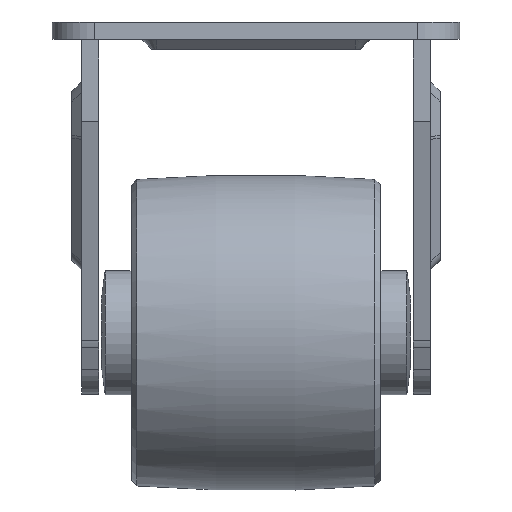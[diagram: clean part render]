
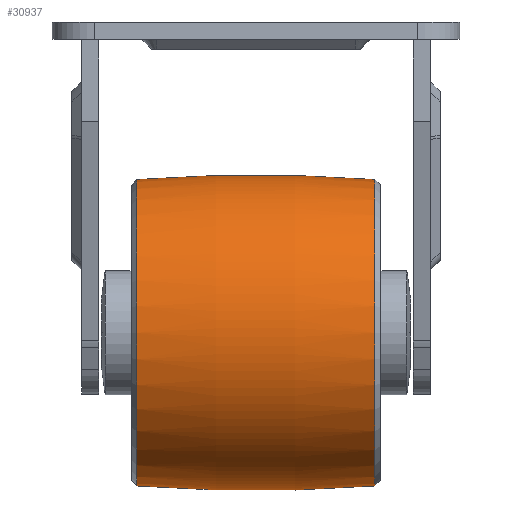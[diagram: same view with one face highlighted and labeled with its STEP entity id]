
A CAD part, left-side view. The second image highlights one B-rep face of the part: STEP entity #30937.
In plain terms, the highlighted toroidal (fillet/blend) face has major radius 281.25 mm and minor radius 313 mm.
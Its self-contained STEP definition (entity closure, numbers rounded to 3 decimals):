
#896 = CARTESIAN_POINT ( 'NONE',  ( -7.346, 127.215, 192.452 ) ) ;
#1140 = CIRCLE ( 'NONE', #19275, 30.828 ) ;
#3233 = CARTESIAN_POINT ( 'NONE',  ( -7.346, 175.134, 161.617 ) ) ;
#3414 = DIRECTION ( 'NONE',  ( 0., 0., -1. ) ) ;
#3679 = AXIS2_PLACEMENT_3D ( 'NONE', #29043, #35017, #18927 ) ;
#4761 = CIRCLE ( 'NONE', #3679, 313. ) ;
#5025 = AXIS2_PLACEMENT_3D ( 'NONE', #35273, #19315, #16358 ) ;
#6344 = DIRECTION ( 'NONE',  ( 0., 0., -1. ) ) ;
#8946 = VERTEX_POINT ( 'NONE', #896 ) ;
#9688 = TOROIDAL_SURFACE ( 'NONE', #5025, -281.25, 313. ) ;
#9713 = CARTESIAN_POINT ( 'NONE',  ( -7.346, 175.134, 130.789 ) ) ;
#9801 = DIRECTION ( 'NONE',  ( 1., 0., 0. ) ) ;
#10509 = ORIENTED_EDGE ( 'NONE', *, *, #14700, .T. ) ;
#11156 = ORIENTED_EDGE ( 'NONE', *, *, #35917, .F. ) ;
#12208 = CIRCLE ( 'NONE', #35947, 30.835 ) ;
#13982 = ORIENTED_EDGE ( 'NONE', *, *, #20694, .T. ) ;
#14700 = EDGE_CURVE ( 'NONE', #37093, #31857, #1140, .T. ) ;
#15361 = EDGE_LOOP ( 'NONE', ( #11156, #13982, #37348, #10509 ) ) ;
#16358 = DIRECTION ( 'NONE',  ( 0., 0., 1. ) ) ;
#18813 = CARTESIAN_POINT ( 'NONE',  ( -7.346, 127.215, 130.782 ) ) ;
#18927 = DIRECTION ( 'NONE',  ( 0., 0., 1. ) ) ;
#19066 = EDGE_CURVE ( 'NONE', #8946, #37093, #4761, .T. ) ;
#19275 = AXIS2_PLACEMENT_3D ( 'NONE', #3233, #42073, #6344 ) ;
#19315 = DIRECTION ( 'NONE',  ( 0., 1., 0. ) ) ;
#19866 = FACE_OUTER_BOUND ( 'NONE', #15361, .T. ) ;
#20694 = EDGE_CURVE ( 'NONE', #28146, #8946, #12208, .T. ) ;
#25512 = AXIS2_PLACEMENT_3D ( 'NONE', #29273, #9801, #3414 ) ;
#26761 = CARTESIAN_POINT ( 'NONE',  ( -7.346, 175.134, 192.445 ) ) ;
#28146 = VERTEX_POINT ( 'NONE', #18813 ) ;
#29043 = CARTESIAN_POINT ( 'NONE',  ( -7.346, 151.13, -119.633 ) ) ;
#29273 = CARTESIAN_POINT ( 'NONE',  ( -7.346, 151.13, 442.867 ) ) ;
#30809 = CIRCLE ( 'NONE', #25512, 313. ) ;
#30937 = ADVANCED_FACE ( 'NONE', ( #19866 ), #9688, .T. ) ;
#30960 = CARTESIAN_POINT ( 'NONE',  ( -7.346, 127.215, 161.617 ) ) ;
#31857 = VERTEX_POINT ( 'NONE', #9713 ) ;
#35017 = DIRECTION ( 'NONE',  ( -1., 0., 0. ) ) ;
#35273 = CARTESIAN_POINT ( 'NONE',  ( -7.346, 151.13, 161.617 ) ) ;
#35649 = DIRECTION ( 'NONE',  ( 0., 0., 1. ) ) ;
#35917 = EDGE_CURVE ( 'NONE', #28146, #31857, #30809, .T. ) ;
#35947 = AXIS2_PLACEMENT_3D ( 'NONE', #30960, #40797, #35649 ) ;
#37093 = VERTEX_POINT ( 'NONE', #26761 ) ;
#37348 = ORIENTED_EDGE ( 'NONE', *, *, #19066, .T. ) ;
#40797 = DIRECTION ( 'NONE',  ( 0., 1., 0. ) ) ;
#42073 = DIRECTION ( 'NONE',  ( 0., -1., 0. ) ) ;
